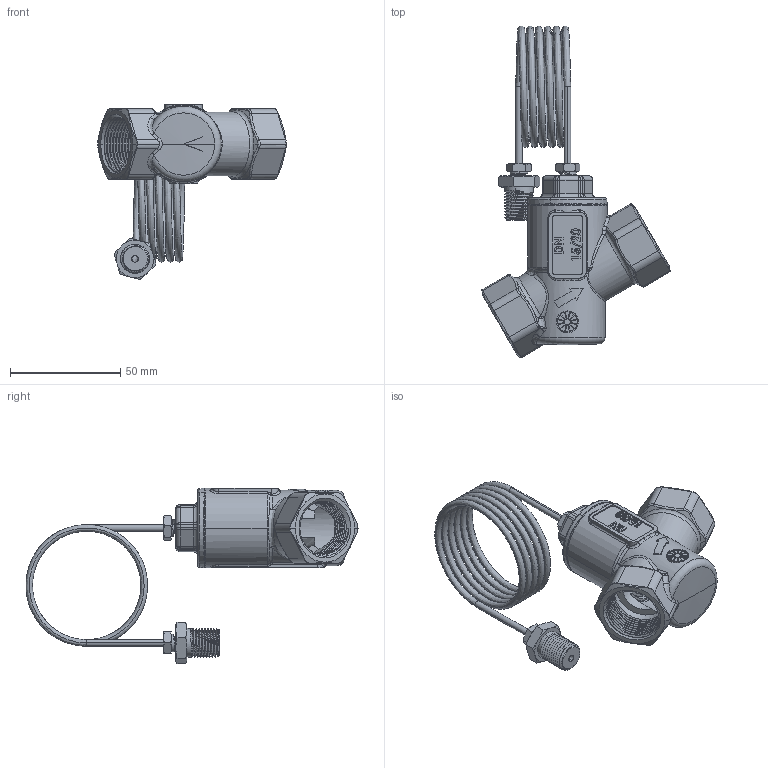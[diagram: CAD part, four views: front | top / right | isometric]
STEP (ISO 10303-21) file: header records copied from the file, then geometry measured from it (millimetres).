
FILE_DESCRIPTION (( 'STEP AP203' ), '1' );
FILE_NAME ('SDP.30 AHouse DN20 ISO FF.step', '2024-04-12T07:30:17', ( '' ), ( '' ), 'SwSTEP 2.0', 'SolidWorks 2023', '' );
FILE_SCHEMA (( 'CONFIG_CONTROL_DESIGN' ));
Length unit declared in the file: millimetre
Products named in the file (1): SDP.30 AHouse DN20 ISO FF
Bounding box: 85.65 x 150.88 x 79.64 mm (x, y, z)
Surface area: 34730 mm2 (no closed solid volume)
Topology: 0 solids, 10 shells, 720 faces, 2151 edges, 1387 vertices
Faces by surface type: cylinder 223, plane 218, bspline 135, torus 69, cone 57, sphere 18
Entity records: 43289 total; most frequent: CARTESIAN_POINT 25797, ORIENTED_EDGE 3738, DIRECTION 3260, EDGE_CURVE 2125, VERTEX_POINT 1383, AXIS2_PLACEMENT_3D 1211, VECTOR 838, LINE 838
